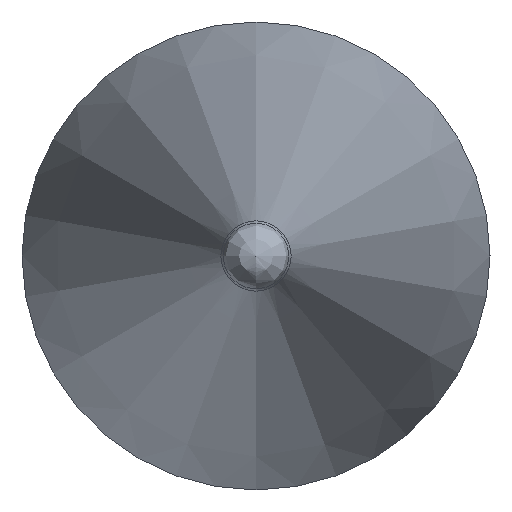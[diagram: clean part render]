
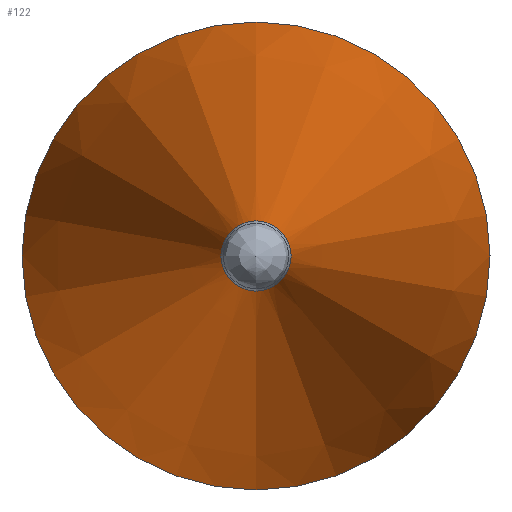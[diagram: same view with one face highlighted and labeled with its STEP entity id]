
A CAD part, left-side view. The second image highlights one B-rep face of the part: STEP entity #122.
In plain terms, the highlighted conical face has half-angle 12 degrees and reference radius 2 mm.
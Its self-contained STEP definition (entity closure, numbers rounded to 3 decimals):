
#98=CONICAL_SURFACE('',#197,2.,12.);
#107=FACE_BOUND('',#136,.T.);
#108=FACE_BOUND('',#137,.T.);
#122=ADVANCED_FACE('',(#107,#108),#98,.T.);
#136=EDGE_LOOP('',(#152));
#137=EDGE_LOOP('',(#153));
#152=ORIENTED_EDGE('',*,*,#175,.T.);
#153=ORIENTED_EDGE('',*,*,#176,.F.);
#166=VERTEX_POINT('',#249);
#167=VERTEX_POINT('',#252);
#175=EDGE_CURVE('',#166,#166,#183,.T.);
#176=EDGE_CURVE('',#167,#167,#184,.T.);
#183=CIRCLE('',#194,0.29);
#184=CIRCLE('',#196,2.);
#194=AXIS2_PLACEMENT_3D('',#248,#217,#218);
#196=AXIS2_PLACEMENT_3D('',#251,#221,#222);
#197=AXIS2_PLACEMENT_3D('',#253,#223,#224);
#217=DIRECTION('',(1.,0.,0.));
#218=DIRECTION('',(0.,0.,-1.));
#221=DIRECTION('',(1.,0.,0.));
#222=DIRECTION('',(0.,0.,-1.));
#223=DIRECTION('',(1.,0.,0.));
#224=DIRECTION('',(0.,0.,-1.));
#248=CARTESIAN_POINT('',(7895.912,6103.288,0.));
#249=CARTESIAN_POINT('',(7895.912,6103.288,-0.29));
#251=CARTESIAN_POINT('',(7903.958,6103.288,0.));
#252=CARTESIAN_POINT('',(7903.958,6103.288,-2.));
#253=CARTESIAN_POINT('',(7903.958,6103.288,0.));
